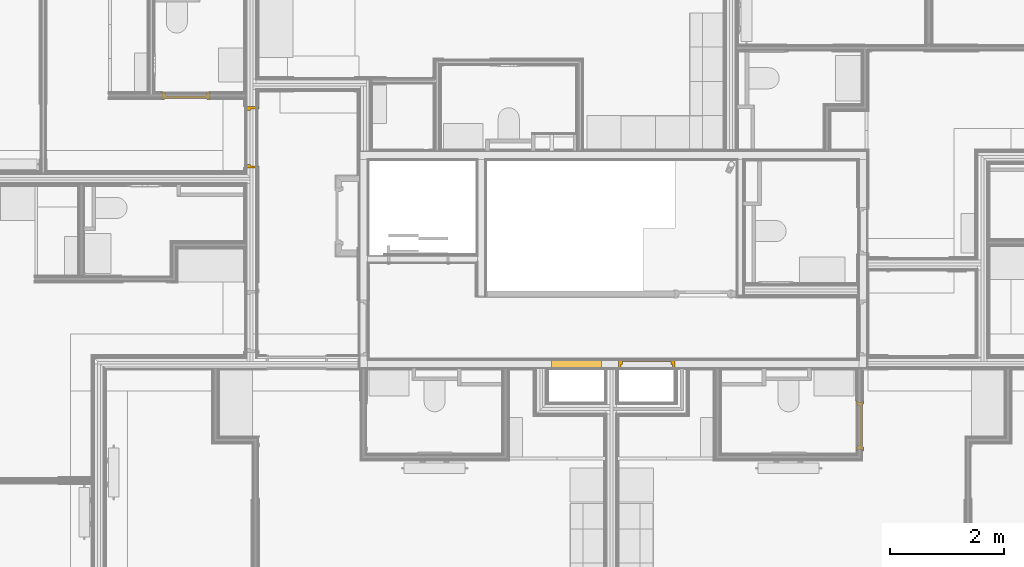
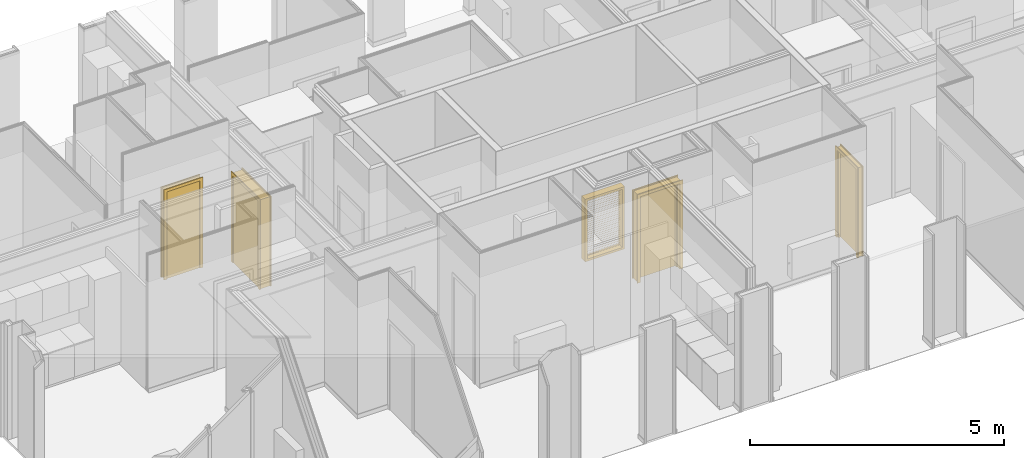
# One storey, part 53 of 64: 4 doors, 1 curtain wall.
"""IFC2X3 building model written with IfcOpenShell, lengths in metres."""

from ifc_helpers import new_model, entity, si_unit, converted_unit, derived_unit, money_unit, direction, frame, origin_with_axes, place, context, subcontext, project, spatial, open_shell, faceted_brep, surface_model, material, type_object, element, save


model = new_model("IFC2X3")

# Units and contexts
model_context = context("Model", 3, precision=1e-05, world=origin_with_axes(), true_north=direction((0.0, 1.0)))
body_context = subcontext(model_context, "Body", "Model", "MODEL_VIEW", scale=1.0)
ifc_project = project(units=[si_unit("LENGTHUNIT", "METRE"), si_unit("AREAUNIT", "SQUARE_METRE"), si_unit("VOLUMEUNIT", "CUBIC_METRE"), si_unit("ABSORBEDDOSEUNIT", "GRAY"), si_unit("AMOUNTOFSUBSTANCEUNIT", "MOLE"), si_unit("DOSEEQUIVALENTUNIT", "SIEVERT"), si_unit("ELECTRICCAPACITANCEUNIT", "FARAD"), si_unit("ELECTRICCHARGEUNIT", "COULOMB"), si_unit("ELECTRICCONDUCTANCEUNIT", "SIEMENS"), si_unit("ELECTRICCURRENTUNIT", "AMPERE"), si_unit("ELECTRICRESISTANCEUNIT", "OHM"), si_unit("ELECTRICVOLTAGEUNIT", "VOLT"), si_unit("ENERGYUNIT", "JOULE"), si_unit("FORCEUNIT", "NEWTON"), si_unit("FREQUENCYUNIT", "HERTZ"), si_unit("ILLUMINANCEUNIT", "LUX"), si_unit("INDUCTANCEUNIT", "HENRY"), si_unit("LUMINOUSFLUXUNIT", "LUMEN"), si_unit("LUMINOUSINTENSITYUNIT", "CANDELA"), si_unit("MAGNETICFLUXDENSITYUNIT", "TESLA"), si_unit("MAGNETICFLUXUNIT", "WEBER"), si_unit("MASSUNIT", "GRAM"), converted_unit("PLANEANGLEUNIT", "degree", entity("IfcReal", 0.0174532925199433), si_unit("PLANEANGLEUNIT", "RADIAN"), dimensions=[0, 0, 0, 0, 0, 0, 0]), si_unit("POWERUNIT", "WATT"), si_unit("PRESSUREUNIT", "PASCAL"), si_unit("RADIOACTIVITYUNIT", "BECQUEREL"), si_unit("SOLIDANGLEUNIT", "STERADIAN"), si_unit("THERMODYNAMICTEMPERATUREUNIT", "KELVIN"), si_unit("TIMEUNIT", "SECOND"), derived_unit("ACCELERATIONUNIT", [(si_unit("LENGTHUNIT", "METRE"), 1), (si_unit("TIMEUNIT", "SECOND"), -2)]), derived_unit("ANGULARVELOCITYUNIT", [(converted_unit("PLANEANGLEUNIT", "degree", entity("IfcReal", 0.0174532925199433), si_unit("PLANEANGLEUNIT", "RADIAN"), dimensions=[0, 0, 0, 0, 0, 0, 0]), 1), (si_unit("TIMEUNIT", "SECOND"), -1)]), derived_unit("CURVATUREUNIT", [(converted_unit("PLANEANGLEUNIT", "degree", entity("IfcReal", 0.0174532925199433), si_unit("PLANEANGLEUNIT", "RADIAN"), dimensions=[0, 0, 0, 0, 0, 0, 0]), 1), (si_unit("LENGTHUNIT", "METRE"), -1)]), derived_unit("DYNAMICVISCOSITYUNIT", [(si_unit("PRESSUREUNIT", "PASCAL"), 1), (si_unit("TIMEUNIT", "SECOND"), 1)]), derived_unit("HEATFLUXDENSITYUNIT", [(si_unit("POWERUNIT", "WATT"), 1), (si_unit("LENGTHUNIT", "METRE"), -2)]), derived_unit("HEATINGVALUEUNIT", [(si_unit("ENERGYUNIT", "JOULE"), 1), (si_unit("MASSUNIT", "GRAM"), -1)]), derived_unit("INTEGERCOUNTRATEUNIT", [(si_unit("TIMEUNIT", "SECOND"), -1)]), derived_unit("IONCONCENTRATIONUNIT", [(si_unit("MASSUNIT", "GRAM"), 1), (si_unit("VOLUMEUNIT", "CUBIC_METRE"), -1)]), derived_unit("ISOTHERMALMOISTURECAPACITYUNIT", [(si_unit("VOLUMEUNIT", "CUBIC_METRE"), 1), (si_unit("MASSUNIT", "GRAM"), -1)]), derived_unit("KINEMATICVISCOSITYUNIT", [(si_unit("AREAUNIT", "SQUARE_METRE"), 1), (si_unit("TIMEUNIT", "SECOND"), -1)]), derived_unit("LINEARFORCEUNIT", [(si_unit("FORCEUNIT", "NEWTON"), 1), (si_unit("LENGTHUNIT", "METRE"), -1)]), derived_unit("LINEARMOMENTUNIT", [(si_unit("FORCEUNIT", "NEWTON"), 1), (si_unit("LENGTHUNIT", "METRE"), -1)]), derived_unit("LINEARSTIFFNESSUNIT", [(si_unit("FORCEUNIT", "NEWTON"), 1), (si_unit("LENGTHUNIT", "METRE"), -1)]), derived_unit("LINEARVELOCITYUNIT", [(si_unit("LENGTHUNIT", "METRE"), 1), (si_unit("TIMEUNIT", "SECOND"), -1)]), derived_unit("LUMINOUSINTENSITYDISTRIBUTIONUNIT", [(si_unit("LUMINOUSINTENSITYUNIT", "CANDELA"), 1), (si_unit("LUMINOUSFLUXUNIT", "LUMEN"), -1)]), derived_unit("MASSDENSITYUNIT", [(si_unit("MASSUNIT", "GRAM"), 1), (si_unit("VOLUMEUNIT", "CUBIC_METRE"), -1)]), derived_unit("MASSFLOWRATEUNIT", [(si_unit("MASSUNIT", "GRAM"), 1), (si_unit("TIMEUNIT", "SECOND"), -1)]), derived_unit("MASSPERLENGTHUNIT", [(si_unit("MASSUNIT", "GRAM"), 1), (si_unit("LENGTHUNIT", "METRE"), -1)]), derived_unit("MODULUSOFELASTICITYUNIT", [(si_unit("FORCEUNIT", "NEWTON"), 1), (si_unit("AREAUNIT", "SQUARE_METRE"), -1)]), derived_unit("MODULUSOFLINEARSUBGRADEREACTIONUNIT", [(si_unit("FORCEUNIT", "NEWTON"), 1), (si_unit("LENGTHUNIT", "METRE"), -2)]), derived_unit("MODULUSOFROTATIONALSUBGRADEREACTIONUNIT", [(si_unit("FORCEUNIT", "NEWTON"), 1), (si_unit("LENGTHUNIT", "METRE"), 1)]), derived_unit("MODULUSOFSUBGRADEREACTIONUNIT", [(si_unit("FORCEUNIT", "NEWTON"), 1), (si_unit("VOLUMEUNIT", "CUBIC_METRE"), -1)]), derived_unit("MOISTUREDIFFUSIVITYUNIT", [(si_unit("VOLUMEUNIT", "CUBIC_METRE"), 1), (si_unit("TIMEUNIT", "SECOND"), -1)]), derived_unit("MOLECULARWEIGHTUNIT", [(si_unit("MASSUNIT", "GRAM"), 1), (si_unit("AMOUNTOFSUBSTANCEUNIT", "MOLE"), -1)]), derived_unit("PLANARFORCEUNIT", [(si_unit("FORCEUNIT", "NEWTON"), 1), (si_unit("LENGTHUNIT", "METRE"), -2)]), derived_unit("ROTATIONALFREQUENCYUNIT", [(si_unit("TIMEUNIT", "SECOND"), -1)]), derived_unit("ROTATIONALMASSUNIT", [(si_unit("MASSUNIT", "GRAM"), 1), (si_unit("LENGTHUNIT", "METRE"), 2)]), derived_unit("ROTATIONALSTIFFNESSUNIT", [(si_unit("FORCEUNIT", "NEWTON"), 1), (si_unit("LENGTHUNIT", "METRE"), 1), (converted_unit("PLANEANGLEUNIT", "degree", entity("IfcReal", 0.0174532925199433), si_unit("PLANEANGLEUNIT", "RADIAN"), dimensions=[0, 0, 0, 0, 0, 0, 0]), -1)]), derived_unit("SECTIONAREAINTEGRALUNIT", [(si_unit("LENGTHUNIT", "METRE"), 5)]), derived_unit("SECTIONMODULUSUNIT", [(si_unit("LENGTHUNIT", "METRE"), 3)]), derived_unit("SHEARMODULUSUNIT", [(si_unit("FORCEUNIT", "NEWTON"), 1), (si_unit("AREAUNIT", "SQUARE_METRE"), -1)]), derived_unit("SOUNDPOWERUNIT", [(si_unit("ENERGYUNIT", "JOULE"), 1), (si_unit("TIMEUNIT", "SECOND"), -1)]), derived_unit("SPECIFICHEATCAPACITYUNIT", [(si_unit("FORCEUNIT", "NEWTON"), 1), (si_unit("MASSUNIT", "GRAM"), -1), (si_unit("THERMODYNAMICTEMPERATUREUNIT", "KELVIN"), -1)]), derived_unit("TEMPERATUREGRADIENTUNIT", [(si_unit("THERMODYNAMICTEMPERATUREUNIT", "KELVIN"), 1), (si_unit("LENGTHUNIT", "METRE"), -1)]), derived_unit("THERMALADMITTANCEUNIT", [(si_unit("POWERUNIT", "WATT"), 1), (si_unit("AREAUNIT", "SQUARE_METRE"), -1), (si_unit("THERMODYNAMICTEMPERATUREUNIT", "KELVIN"), -1)]), derived_unit("THERMALCONDUCTANCEUNIT", [(si_unit("POWERUNIT", "WATT"), 1), (si_unit("LENGTHUNIT", "METRE"), -1), (si_unit("THERMODYNAMICTEMPERATUREUNIT", "KELVIN"), -1)]), derived_unit("THERMALEXPANSIONCOEFFICIENTUNIT", [(si_unit("THERMODYNAMICTEMPERATUREUNIT", "KELVIN"), -1)]), derived_unit("THERMALRESISTANCEUNIT", [(si_unit("AREAUNIT", "SQUARE_METRE"), 1), (si_unit("POWERUNIT", "WATT"), -1)]), derived_unit("THERMALTRANSMITTANCEUNIT", [(si_unit("POWERUNIT", "WATT"), 1), (si_unit("AREAUNIT", "SQUARE_METRE"), -1), (si_unit("THERMODYNAMICTEMPERATUREUNIT", "KELVIN"), -1)]), derived_unit("TORQUEUNIT", [(si_unit("FORCEUNIT", "NEWTON"), 1), (si_unit("LENGTHUNIT", "METRE"), 1)]), derived_unit("VAPORPERMEABILITYUNIT", [(si_unit("MASSUNIT", "GRAM"), 1), (si_unit("TIMEUNIT", "SECOND"), -1)]), derived_unit("VOLUMETRICFLOWRATEUNIT", [(si_unit("VOLUMEUNIT", "CUBIC_METRE"), 1), (si_unit("TIMEUNIT", "SECOND"), -1)]), derived_unit("WARPINGCONSTANTUNIT", [(si_unit("LENGTHUNIT", "METRE"), 6)]), derived_unit("WARPINGMOMENTUNIT", [(si_unit("FORCEUNIT", "NEWTON"), 1), (si_unit("LENGTHUNIT", "METRE"), 2)]), money_unit("GBP")], contexts=[model_context])

# Site, building, storey
site_placement = place(None, origin_with_axes())
site = spatial("IfcSite", under=ifc_project, at=site_placement, Name="Site", CompositionType="ELEMENT")
building_placement = place(site_placement, origin_with_axes())
building = spatial("IfcBuilding", under=site, at=building_placement, Name="Building01", CompositionType="ELEMENT")
storey_placement = place(building_placement, frame((0.0, 0.0, 8.64), z_axis=(0.0, 0.0, 1.0), x_axis=(1.0, 0.0, 0.0)))
storey = spatial("IfcBuildingStorey", under=building, at=storey_placement, Name="2F", CompositionType="ELEMENT", Elevation=8.64)

# Curtain wall
ifc_material_1 = material(Name="A-CurtainWall_Frame")
curtain_wall_type = type_object("IfcCurtainWallType", Name="Generic - Maximum Spacing", PredefinedType="NOTDEFINED")
curtain_wall_placement = place(storey_placement, frame((0.0, 0.0, -8.64), z_axis=(0.0, 0.0, 1.0), x_axis=(1.0, 0.0, 0.0)))
element("IfcCurtainWall", 1, at=curtain_wall_placement, inside=storey, type_object=curtain_wall_type, material=ifc_material_1, Name="Generic - Maximum Spacing", ObjectType="Generic - Maximum Spacing", context=body_context, shape_type="SurfaceModel", body=[
    surface_model("IfcShellBasedSurfaceModel", [(12.483, 5.12953, 9.573684), (12.483, 5.131392, 9.576216), (12.483, 5.09047, 9.606316), (12.483, 5.088608, 9.603784), (13.283, 5.12953, 9.573684), (13.283, 5.088608, 9.603784), (13.283, 5.09047, 9.606316), (13.283, 5.131392, 9.576216), (12.483, 5.131392, 9.626216), (12.483, 5.09047, 9.656316), (12.483, 5.088608, 9.653784), (12.483, 5.12953, 9.623684), (13.283, 5.12953, 9.623684), (13.283, 5.088608, 9.653784), (13.283, 5.09047, 9.656316), (13.283, 5.131392, 9.626216), (12.483, 5.131392, 9.676216), (12.483, 5.09047, 9.706316), (12.483, 5.088608, 9.703784), (12.483, 5.12953, 9.673684), (13.283, 5.12953, 9.673684), (13.283, 5.088608, 9.703784), (13.283, 5.09047, 9.706316), (13.283, 5.131392, 9.676216), (12.483, 5.131392, 9.726216), (12.483, 5.09047, 9.756316), (12.483, 5.088608, 9.753784), (12.483, 5.12953, 9.723684), (13.283, 5.12953, 9.723684), (13.283, 5.088608, 9.753784), (13.283, 5.09047, 9.756316), (13.283, 5.131392, 9.726216), (12.483, 5.131392, 9.776216), (12.483, 5.09047, 9.806316), (12.483, 5.088608, 9.803784), (12.483, 5.12953, 9.773684), (13.283, 5.12953, 9.773684), (13.283, 5.088608, 9.803784), (13.283, 5.09047, 9.806316), (13.283, 5.131392, 9.776216), (12.483, 5.131392, 9.826216), (12.483, 5.09047, 9.856316), (12.483, 5.088608, 9.853784), (12.483, 5.12953, 9.823684), (13.283, 5.12953, 9.823684), (13.283, 5.088608, 9.853784), (13.283, 5.09047, 9.856316), (13.283, 5.131392, 9.826216), (12.483, 5.131392, 9.876216), (12.483, 5.09047, 9.906316), (12.483, 5.088608, 9.903784), (12.483, 5.12953, 9.873684), (13.283, 5.12953, 9.873684), (13.283, 5.088608, 9.903784), (13.283, 5.09047, 9.906316), (13.283, 5.131392, 9.876216), (12.483, 5.131392, 9.926216), (12.483, 5.09047, 9.956316), (12.483, 5.088608, 9.953784), (12.483, 5.12953, 9.923684), (13.283, 5.12953, 9.923684), (13.283, 5.088608, 9.953784), (13.283, 5.09047, 9.956316), (13.283, 5.131392, 9.926216), (12.483, 5.131392, 9.976216), (12.483, 5.09047, 10.006316), (12.483, 5.088608, 10.003784), (12.483, 5.12953, 9.973684), (13.283, 5.12953, 9.973684), (13.283, 5.088608, 10.003784), (13.283, 5.09047, 10.006316), (13.283, 5.131392, 9.976216), (12.483, 5.131392, 10.026216), (12.483, 5.09047, 10.056316), (12.483, 5.088608, 10.053784), (12.483, 5.12953, 10.023684), (13.283, 5.12953, 10.023684), (13.283, 5.088608, 10.053784), (13.283, 5.09047, 10.056316), (13.283, 5.131392, 10.026216), (12.483, 5.131392, 10.076216), (12.483, 5.09047, 10.106316), (12.483, 5.088608, 10.103784), (12.483, 5.12953, 10.073684), (13.283, 5.12953, 10.073684), (13.283, 5.088608, 10.103784), (13.283, 5.09047, 10.106316), (13.283, 5.131392, 10.076216), (12.483, 5.131392, 10.126216), (12.483, 5.09047, 10.156316), (12.483, 5.088608, 10.153784), (12.483, 5.12953, 10.123684), (13.283, 5.12953, 10.123684), (13.283, 5.088608, 10.153784), (13.283, 5.09047, 10.156316), (13.283, 5.131392, 10.126216), (12.483, 5.131392, 10.176216), (12.483, 5.09047, 10.206316), (12.483, 5.088608, 10.203784), (12.483, 5.12953, 10.173684), (13.283, 5.12953, 10.173684), (13.283, 5.088608, 10.203784), (13.283, 5.09047, 10.206316), (13.283, 5.131392, 10.176216), (12.483, 5.131392, 10.226216), (12.483, 5.09047, 10.256316), (12.483, 5.088608, 10.253784), (12.483, 5.12953, 10.223684), (13.283, 5.12953, 10.223684), (13.283, 5.088608, 10.253784), (13.283, 5.09047, 10.256316), (13.283, 5.131392, 10.226216), (12.483, 5.131392, 10.276216), (12.483, 5.09047, 10.306316), (12.483, 5.088608, 10.303784), (12.483, 5.12953, 10.273684), (13.283, 5.12953, 10.273684), (13.283, 5.088608, 10.303784), (13.283, 5.09047, 10.306316), (13.283, 5.131392, 10.276216), (12.483, 5.131392, 10.326216), (12.483, 5.09047, 10.356316), (12.483, 5.088608, 10.353784), (12.483, 5.12953, 10.323684), (13.283, 5.12953, 10.323684), (13.283, 5.088608, 10.353784), (13.283, 5.09047, 10.356316), (13.283, 5.131392, 10.326216), (12.483, 5.131392, 10.376216), (12.483, 5.09047, 10.406316), (12.483, 5.088608, 10.403784), (12.483, 5.12953, 10.373684), (13.283, 5.12953, 10.373684), (13.283, 5.088608, 10.403784), (13.283, 5.09047, 10.406316), (13.283, 5.131392, 10.376216), (12.483, 5.131392, 10.426216), (12.483, 5.09047, 10.456316), (12.483, 5.088608, 10.453784), (12.483, 5.12953, 10.423684), (13.283, 5.12953, 10.423684), (13.283, 5.088608, 10.453784), (13.283, 5.09047, 10.456316), (13.283, 5.131392, 10.426216), (12.483, 5.131392, 10.476216), (12.483, 5.09047, 10.506316), (12.483, 5.088608, 10.503784), (12.483, 5.12953, 10.473684), (13.283, 5.12953, 10.473684), (13.283, 5.088608, 10.503784), (13.283, 5.09047, 10.506316), (13.283, 5.131392, 10.476216), (12.483, 5.131392, 10.526216), (12.483, 5.09047, 10.556316), (12.483, 5.088608, 10.553784), (12.483, 5.12953, 10.523684), (13.283, 5.12953, 10.523684), (13.283, 5.088608, 10.553784), (13.283, 5.09047, 10.556316), (13.283, 5.131392, 10.526216), (12.483, 5.131392, 10.576216), (12.483, 5.09047, 10.606316), (12.483, 5.088608, 10.603784), (12.483, 5.12953, 10.573684), (13.283, 5.12953, 10.573684), (13.283, 5.088608, 10.603784), (13.283, 5.09047, 10.606316), (13.283, 5.131392, 10.576216), (12.483, 5.131392, 10.626216), (12.483, 5.09047, 10.656316), (12.483, 5.088608, 10.653784), (12.483, 5.12953, 10.623684), (13.283, 5.12953, 10.623684), (13.283, 5.088608, 10.653784), (13.283, 5.09047, 10.656316), (13.283, 5.131392, 10.626216), (12.483, 5.131392, 10.676216), (12.483, 5.09047, 10.706316), (12.483, 5.088608, 10.703784), (12.483, 5.12953, 10.673684), (13.283, 5.12953, 10.673684), (13.283, 5.088608, 10.703784), (13.283, 5.09047, 10.706316), (13.283, 5.131392, 10.676216), (12.483, 5.131392, 10.726216), (12.483, 5.09047, 10.756316), (12.483, 5.088608, 10.753784), (12.483, 5.12953, 10.723684), (13.283, 5.12953, 10.723684), (13.283, 5.088608, 10.753784), (13.283, 5.09047, 10.756316), (13.283, 5.131392, 10.726216), (12.483, 5.131392, 10.776216), (12.483, 5.09047, 10.806316), (12.483, 5.088608, 10.803784), (12.483, 5.12953, 10.773684), (13.283, 5.12953, 10.773684), (13.283, 5.088608, 10.803784), (13.283, 5.09047, 10.806316), (13.283, 5.131392, 10.776216), (12.483, 5.131392, 10.826216), (12.483, 5.09047, 10.856316), (12.483, 5.088608, 10.853784), (12.483, 5.12953, 10.823684), (13.283, 5.12953, 10.823684), (13.283, 5.088608, 10.853784), (13.283, 5.09047, 10.856316), (13.283, 5.131392, 10.826216), (12.483, 5.131392, 10.876216), (12.483, 5.09047, 10.906316), (12.483, 5.088608, 10.903784), (12.483, 5.12953, 10.873684), (13.283, 5.12953, 10.873684), (13.283, 5.088608, 10.903784), (13.283, 5.09047, 10.906316), (13.283, 5.131392, 10.876216), (12.483, 5.131392, 10.926216), (12.483, 5.09047, 10.956316), (12.483, 5.088608, 10.953784), (12.483, 5.12953, 10.923684), (13.283, 5.12953, 10.923684), (13.283, 5.088608, 10.953784), (13.283, 5.09047, 10.956316), (13.283, 5.131392, 10.926216), (13.283, 5.15, 9.59), (13.283, 5.0, 9.59), (13.283, 5.0, 9.54), (13.283, 5.15, 9.54), (12.483, 5.15, 9.54), (12.483, 5.15, 9.59), (12.483, 5.0, 9.59), (12.483, 5.0, 9.54), (13.333, 5.0, 11.04), (13.333, 5.15, 11.04), (13.283, 5.15, 11.04), (13.283, 5.0, 11.04), (13.333, 5.0, 9.54), (13.333, 5.15, 9.54), (12.483, 5.0, 11.04), (12.483, 5.15, 11.04), (12.483, 5.15, 10.99), (12.483, 5.0, 10.99), (13.283, 5.0, 10.99), (13.283, 5.15, 10.99), (12.433, 5.0, 9.54), (12.433, 5.15, 9.54), (12.433, 5.0, 11.04), (12.433, 5.15, 11.04)], [open_shell([[[0, 1, 2, 3]], [[1, 2, 3, 0]], [[4, 5, 6, 7]], [[1, 0, 4, 7]], [[2, 1, 7, 6]], [[3, 2, 6, 5]], [[4, 0, 3, 5]], [[8, 9, 10, 11]], [[12, 13, 14, 15]], [[8, 11, 12, 15]], [[9, 8, 15, 14]], [[10, 9, 14, 13]], [[12, 11, 10, 13]], [[16, 17, 18, 19]], [[20, 21, 22, 23]], [[16, 19, 20, 23]], [[17, 16, 23, 22]], [[18, 17, 22, 21]], [[20, 19, 18, 21]], [[24, 25, 26, 27]], [[28, 29, 30, 31]], [[24, 27, 28, 31]], [[25, 24, 31, 30]], [[26, 25, 30, 29]], [[28, 27, 26, 29]], [[32, 33, 34, 35]], [[36, 37, 38, 39]], [[32, 35, 36, 39]], [[33, 32, 39, 38]], [[34, 33, 38, 37]], [[36, 35, 34, 37]], [[40, 41, 42, 43]], [[44, 45, 46, 47]], [[40, 43, 44, 47]], [[41, 40, 47, 46]], [[42, 41, 46, 45]], [[44, 43, 42, 45]], [[48, 49, 50, 51]], [[52, 53, 54, 55]], [[48, 51, 52, 55]], [[49, 48, 55, 54]], [[50, 49, 54, 53]], [[52, 51, 50, 53]], [[56, 57, 58, 59]], [[60, 61, 62, 63]], [[56, 59, 60, 63]], [[57, 56, 63, 62]], [[58, 57, 62, 61]], [[60, 59, 58, 61]], [[64, 65, 66, 67]], [[68, 69, 70, 71]], [[64, 67, 68, 71]], [[65, 64, 71, 70]], [[66, 65, 70, 69]], [[68, 67, 66, 69]], [[72, 73, 74, 75]], [[76, 77, 78, 79]], [[72, 75, 76, 79]], [[73, 72, 79, 78]], [[74, 73, 78, 77]], [[76, 75, 74, 77]], [[80, 81, 82, 83]], [[84, 85, 86, 87]], [[80, 83, 84, 87]], [[81, 80, 87, 86]], [[82, 81, 86, 85]], [[84, 83, 82, 85]], [[88, 89, 90, 91]], [[92, 93, 94, 95]], [[88, 91, 92, 95]], [[89, 88, 95, 94]], [[90, 89, 94, 93]], [[92, 91, 90, 93]], [[96, 97, 98, 99]], [[100, 101, 102, 103]], [[96, 99, 100, 103]], [[97, 96, 103, 102]], [[98, 97, 102, 101]], [[100, 99, 98, 101]], [[104, 105, 106, 107]], [[108, 109, 110, 111]], [[104, 107, 108, 111]], [[105, 104, 111, 110]], [[106, 105, 110, 109]], [[108, 107, 106, 109]], [[112, 113, 114, 115]], [[116, 117, 118, 119]], [[112, 115, 116, 119]], [[113, 112, 119, 118]], [[114, 113, 118, 117]], [[116, 115, 114, 117]], [[120, 121, 122, 123]], [[124, 125, 126, 127]], [[120, 123, 124, 127]], [[121, 120, 127, 126]], [[122, 121, 126, 125]], [[124, 123, 122, 125]], [[128, 129, 130, 131]], [[132, 133, 134, 135]], [[128, 131, 132, 135]], [[129, 128, 135, 134]], [[130, 129, 134, 133]], [[132, 131, 130, 133]], [[136, 137, 138, 139]], [[140, 141, 142, 143]], [[136, 139, 140, 143]], [[137, 136, 143, 142]], [[138, 137, 142, 141]], [[140, 139, 138, 141]], [[144, 145, 146, 147]], [[148, 149, 150, 151]], [[144, 147, 148, 151]], [[145, 144, 151, 150]], [[146, 145, 150, 149]], [[148, 147, 146, 149]], [[152, 153, 154, 155]], [[156, 157, 158, 159]], [[152, 155, 156, 159]], [[153, 152, 159, 158]], [[154, 153, 158, 157]], [[156, 155, 154, 157]], [[160, 161, 162, 163]], [[164, 165, 166, 167]], [[160, 163, 164, 167]], [[161, 160, 167, 166]], [[162, 161, 166, 165]], [[164, 163, 162, 165]], [[168, 169, 170, 171]], [[172, 173, 174, 175]], [[168, 171, 172, 175]], [[169, 168, 175, 174]], [[170, 169, 174, 173]], [[172, 171, 170, 173]], [[176, 177, 178, 179]], [[180, 181, 182, 183]], [[176, 179, 180, 183]], [[177, 176, 183, 182]], [[178, 177, 182, 181]], [[180, 179, 178, 181]], [[184, 185, 186, 187]], [[188, 189, 190, 191]], [[184, 187, 188, 191]], [[185, 184, 191, 190]], [[186, 185, 190, 189]], [[188, 187, 186, 189]], [[192, 193, 194, 195]], [[196, 197, 198, 199]], [[192, 195, 196, 199]], [[193, 192, 199, 198]], [[194, 193, 198, 197]], [[196, 195, 194, 197]], [[200, 201, 202, 203]], [[204, 205, 206, 207]], [[200, 203, 204, 207]], [[201, 200, 207, 206]], [[202, 201, 206, 205]], [[204, 203, 202, 205]], [[208, 209, 210, 211]], [[212, 213, 214, 215]], [[208, 211, 212, 215]], [[209, 208, 215, 214]], [[210, 209, 214, 213]], [[212, 211, 210, 213]], [[216, 217, 218, 219]], [[220, 221, 222, 223]], [[216, 219, 220, 223]], [[217, 216, 223, 222]], [[218, 217, 222, 221]], [[220, 219, 218, 221]], [[224, 225, 226, 227]], [[227, 228, 229, 224]], [[224, 229, 230, 225]], [[225, 230, 231, 226]], [[226, 231, 228, 227]], [[231, 230, 229, 228]], [[232, 233, 234, 235]], [[235, 226, 236, 232]], [[234, 227, 226, 235]], [[233, 237, 227, 234]], [[232, 236, 237, 233]], [[226, 227, 237, 236]], [[238, 239, 240, 241]], [[241, 242, 235, 238]], [[238, 235, 234, 239]], [[239, 234, 243, 240]], [[240, 243, 242, 241]], [[243, 234, 235, 242]], [[244, 245, 228, 231]], [[231, 238, 246, 244]], [[228, 239, 238, 231]], [[245, 247, 239, 228]], [[244, 246, 247, 245]], [[238, 239, 247, 246]]])]),
])

# Space
space_1_placement = place(storey_placement, frame((3.569669, 8.43567, 0.017975), z_axis=(0.0, 0.0, 1.0), x_axis=(1.0, 0.0, 0.0)))
space_1 = spatial("IfcSpace", under=storey, at=space_1_placement, Name="corridor", CompositionType="ELEMENT", InteriorOrExteriorSpace="NOTDEFINED")

# Door
ifc_material_2 = material(Name="A_BSUK_Doors")
door_style_1 = type_object("IfcDoorStyle", Name="A-Doors-SingleFlush", ConstructionType="USERDEFINED", OperationType="SINGLE_SWING_LEFT", ParameterTakesPrecedence=False, Sizeable=False)
door_1_placement = place(storey_placement, frame((7.064669, 8.550704, 0.0), z_axis=(0.0, 0.0, 1.0), x_axis=(0.0, 1.0, 0.0)))
element("IfcDoor", 2, at=door_1_placement, inside=space_1, type_object=door_style_1, material=ifc_material_2, Name="2.20", ObjectType="A-Doors-SingleFlush", OverallHeight=2.16900000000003, OverallWidth=1.13800000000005, context=body_context, shape_type="Brep", body=[
    faceted_brep([(0.0, -0.244, 2.1), (1.0, -0.244, 2.1), (1.0, -0.244, 0.0), (1.069, -0.244, 0.0), (1.069, -0.244, 2.169), (-0.069, -0.244, 2.169), (-0.069, -0.244, 0.0), (0.0, -0.244, 0.0), (1.069, -0.225, 2.169), (1.069, -0.225, 0.0), (-0.069, -0.225, 0.0), (-0.069, -0.225, 2.169), (-0.042, -0.225, 0.0), (-0.042, 0.0, 0.0), (-0.069, 0.0, 0.0), (-0.069, 0.019, 0.0), (0.0, 0.019, 0.0), (0.0, 0.019, 2.1), (1.0, 0.019, 2.1), (-0.069, 0.019, 2.169), (1.069, 0.019, 2.169), (1.069, 0.019, 0.0), (1.0, 0.019, 0.0), (-0.069, 0.0, 2.169), (-0.042, 0.0, 2.142), (-0.042, -0.225, 2.142), (1.042, 0.0, 2.142), (1.042, -0.225, 2.142), (1.042, -0.225, 0.0), (1.042, 0.0, 0.0), (1.069, 0.0, 0.0), (1.069, 0.0, 2.169)], [[[0, 1, 2, 3, 4, 5, 6, 7]], [[8, 4, 3, 9]], [[10, 6, 5, 11]], [[11, 5, 4, 8]], [[7, 6, 10, 12, 13, 14, 15, 16]], [[7, 16, 17, 0]], [[0, 17, 18, 1]], [[17, 16, 15, 19, 20, 21, 22, 18]], [[1, 18, 22, 2]], [[14, 23, 19, 15]], [[24, 13, 12, 25]], [[26, 24, 25, 27]], [[11, 8, 9, 28, 27, 25, 12, 10]], [[27, 28, 29, 26]], [[26, 29, 30, 31, 23, 14, 13, 24]], [[22, 21, 30, 29, 28, 9, 3, 2]], [[30, 21, 20, 31]], [[31, 20, 19, 23]]]),
    faceted_brep([(1.0, -0.09, 0.0), (1.0, -0.04, 0.0), (1.0, -0.04, 2.1), (1.0, -0.09, 2.1), (0.025, -0.09, 2.075), (0.975, -0.09, 2.075), (0.975, -0.09, 0.0), (0.0, -0.09, 2.1), (0.0, -0.09, 0.0), (0.025, -0.09, 0.0), (0.0, -0.04, 0.0), (0.025, -0.04, 0.0), (0.0, -0.04, 2.1), (0.025, -0.04, 2.075), (0.975, -0.04, 0.0), (0.975, -0.04, 2.075)], [[[0, 1, 2, 3]], [[4, 5, 6, 0, 3, 7, 8, 9]], [[9, 8, 10, 11]], [[3, 2, 12, 7]], [[7, 12, 10, 8]], [[13, 11, 10, 12, 2, 1, 14, 15]], [[5, 15, 14, 6]], [[14, 1, 0, 6]], [[9, 11, 13, 4]], [[4, 13, 15, 5]]]),
    faceted_brep([(0.0, -0.04, 2.1), (0.0, 0.0, 2.1), (0.0, 0.0, 0.0), (0.0, -0.04, 0.0), (1.0, -0.04, 0.0), (1.0, 0.0, 0.0), (1.0, 0.0, 2.1), (1.0, -0.04, 2.1)], [[[0, 1, 2, 3]], [[4, 5, 6, 7]], [[3, 2, 5, 4]], [[3, 4, 7, 0]], [[7, 6, 1, 0]], [[1, 6, 5, 2]]]),
])

# Space
space_2_placement = place(storey_placement, frame((14.85, 4.98, 0.017975), z_axis=(0.0, 0.0, 1.0), x_axis=(0.0, -1.0, 0.0)))
space_2 = spatial("IfcSpace", under=storey, at=space_2_placement, Name="11", CompositionType="ELEMENT", InteriorOrExteriorSpace="NOTDEFINED")

# Door
door_style_2 = type_object("IfcDoorStyle", Name="A-Doors-SingleFlush", ConstructionType="USERDEFINED", OperationType="SINGLE_SWING_RIGHT", ParameterTakesPrecedence=False, Sizeable=False)
door_2_placement = place(storey_placement, frame((17.9025, 4.363781, 0.0), z_axis=(0.0, 0.0, 1.0), x_axis=(0.0, -1.0, 0.0)))
element("IfcDoor", 3, at=door_2_placement, inside=space_2, type_object=door_style_2, material=ifc_material_2, Name="2.13", ObjectType="A-Doors-SingleFlush", OverallHeight=2.16900000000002, OverallWidth=0.88800000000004, context=body_context, shape_type="Brep", body=[
    faceted_brep([(0.75, -0.114, 0.0), (0.819, -0.114, 0.0), (0.819, -0.114, 2.169), (-0.069, -0.114, 2.169), (-0.069, -0.114, 0.0), (0.0, -0.114, 0.0), (0.0, -0.114, 2.1), (0.75, -0.114, 2.1), (-0.069, -0.095, 0.0), (-0.069, -0.095, 2.169), (0.819, -0.095, 2.169), (0.819, -0.095, 0.0), (0.75, 0.019, 0.0), (0.819, 0.019, 0.0), (0.819, 0.0, 0.0), (0.792, 0.0, 0.0), (0.792, -0.095, 0.0), (0.75, 0.019, 2.1), (0.0, 0.019, 2.1), (0.0, 0.019, 0.0), (-0.069, 0.019, 0.0), (-0.069, 0.019, 2.169), (0.819, 0.019, 2.169), (0.819, 0.0, 2.169), (0.792, -0.095, 2.142), (0.792, 0.0, 2.142), (-0.042, -0.095, 2.142), (-0.042, 0.0, 2.142), (-0.042, -0.095, 0.0), (-0.042, 0.0, 0.0), (-0.069, 0.0, 2.169), (-0.069, 0.0, 0.0)], [[[0, 1, 2, 3, 4, 5, 6, 7]], [[8, 4, 3, 9]], [[10, 2, 1, 11]], [[9, 3, 2, 10]], [[12, 13, 14, 15, 16, 11, 1, 0]], [[7, 17, 12, 0]], [[6, 18, 17, 7]], [[18, 19, 20, 21, 22, 13, 12, 17]], [[5, 19, 18, 6]], [[13, 22, 23, 14]], [[24, 16, 15, 25]], [[26, 24, 25, 27]], [[11, 16, 24, 26, 28, 8, 9, 10]], [[27, 29, 28, 26]], [[25, 15, 14, 23, 30, 31, 29, 27]], [[5, 4, 8, 28, 29, 31, 20, 19]], [[30, 21, 20, 31]], [[23, 22, 21, 30]]]),
    faceted_brep([(0.0, -0.09, 2.1), (0.0, -0.04, 2.1), (0.0, -0.04, 0.0), (0.0, -0.09, 0.0), (0.725, -0.09, 0.0), (0.75, -0.09, 0.0), (0.75, -0.09, 2.1), (0.025, -0.09, 0.0), (0.025, -0.09, 2.075), (0.725, -0.09, 2.075), (0.725, -0.04, 0.0), (0.75, -0.04, 0.0), (0.75, -0.04, 2.1), (0.025, -0.04, 2.075), (0.025, -0.04, 0.0), (0.725, -0.04, 2.075)], [[[0, 1, 2, 3]], [[4, 5, 6, 0, 3, 7, 8, 9]], [[10, 11, 5, 4]], [[6, 12, 1, 0]], [[5, 11, 12, 6]], [[13, 14, 2, 1, 12, 11, 10, 15]], [[7, 14, 13, 8]], [[7, 3, 2, 14]], [[9, 15, 10, 4]], [[8, 13, 15, 9]]]),
    faceted_brep([(0.75, -0.04, 0.0), (0.75, 0.0, 0.0), (0.75, 0.0, 2.1), (0.75, -0.04, 2.1), (0.0, -0.04, 2.1), (0.0, 0.0, 2.1), (0.0, 0.0, 0.0), (0.0, -0.04, 0.0)], [[[0, 1, 2, 3]], [[4, 5, 6, 7]], [[7, 6, 1, 0]], [[3, 4, 7, 0]], [[3, 2, 5, 4]], [[1, 6, 5, 2]]]),
])

# Space
space_3_placement = place(storey_placement, frame((7.064669, 14.582, 0.017975), z_axis=(0.0, 0.0, 1.0), x_axis=(-1.0, 0.0, 0.0)))
space_3 = spatial("IfcSpace", under=storey, at=space_3_placement, Name="14", CompositionType="ELEMENT", InteriorOrExteriorSpace="NOTDEFINED")

# Door
door_3_placement = place(storey_placement, frame((6.398669, 9.73567, 0.0), z_axis=(0.0, 0.0, 1.0), x_axis=(-1.0, 0.0, 0.0)))
element("IfcDoor", 4, at=door_3_placement, inside=space_3, type_object=door_style_2, material=ifc_material_2, Name="2.22", ObjectType="A-Doors-SingleFlush", OverallHeight=2.16900000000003, OverallWidth=0.888000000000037, context=body_context, shape_type="Brep", body=[
    faceted_brep([(0.75, -0.114, 0.0), (0.819, -0.114, 0.0), (0.819, -0.114, 2.169), (-0.069, -0.114, 2.169), (-0.069, -0.114, 0.0), (0.0, -0.114, 0.0), (0.0, -0.114, 2.1), (0.75, -0.114, 2.1), (-0.069, -0.095, 0.0), (-0.069, -0.095, 2.169), (0.819, -0.095, 2.169), (0.819, -0.095, 0.0), (0.75, 0.019, 0.0), (0.819, 0.019, 0.0), (0.819, 0.0, 0.0), (0.792, 0.0, 0.0), (0.792, -0.095, 0.0), (0.75, 0.019, 2.1), (0.0, 0.019, 2.1), (0.0, 0.019, 0.0), (-0.069, 0.019, 0.0), (-0.069, 0.019, 2.169), (0.819, 0.019, 2.169), (0.819, 0.0, 2.169), (0.792, -0.095, 2.142), (0.792, 0.0, 2.142), (-0.042, -0.095, 2.142), (-0.042, 0.0, 2.142), (-0.042, -0.095, 0.0), (-0.042, 0.0, 0.0), (-0.069, 0.0, 2.169), (-0.069, 0.0, 0.0)], [[[0, 1, 2, 3, 4, 5, 6, 7]], [[8, 4, 3, 9]], [[10, 2, 1, 11]], [[9, 3, 2, 10]], [[12, 13, 14, 15, 16, 11, 1, 0]], [[7, 17, 12, 0]], [[6, 18, 17, 7]], [[18, 19, 20, 21, 22, 13, 12, 17]], [[5, 19, 18, 6]], [[13, 22, 23, 14]], [[24, 16, 15, 25]], [[26, 24, 25, 27]], [[11, 16, 24, 26, 28, 8, 9, 10]], [[27, 29, 28, 26]], [[25, 15, 14, 23, 30, 31, 29, 27]], [[5, 4, 8, 28, 29, 31, 20, 19]], [[30, 21, 20, 31]], [[23, 22, 21, 30]]]),
    faceted_brep([(0.0, -0.09, 2.1), (0.0, -0.04, 2.1), (0.0, -0.04, 0.0), (0.0, -0.09, 0.0), (0.725, -0.09, 0.0), (0.75, -0.09, 0.0), (0.75, -0.09, 2.1), (0.025, -0.09, 0.0), (0.025, -0.09, 2.075), (0.725, -0.09, 2.075), (0.725, -0.04, 0.0), (0.75, -0.04, 0.0), (0.75, -0.04, 2.1), (0.025, -0.04, 2.075), (0.025, -0.04, 0.0), (0.725, -0.04, 2.075)], [[[0, 1, 2, 3]], [[4, 5, 6, 0, 3, 7, 8, 9]], [[10, 11, 5, 4]], [[6, 12, 1, 0]], [[5, 11, 12, 6]], [[13, 14, 2, 1, 12, 11, 10, 15]], [[7, 14, 13, 8]], [[7, 3, 2, 14]], [[9, 15, 10, 4]], [[8, 13, 15, 9]]]),
    faceted_brep([(0.75, -0.04, 0.0), (0.75, 0.0, 0.0), (0.75, 0.0, 2.1), (0.75, -0.04, 2.1), (0.0, -0.04, 2.1), (0.0, 0.0, 2.1), (0.0, 0.0, 0.0), (0.0, -0.04, 0.0)], [[[0, 1, 2, 3]], [[4, 5, 6, 7]], [[7, 6, 1, 0]], [[3, 4, 7, 0]], [[3, 2, 5, 4]], [[1, 6, 5, 2]]]),
])

# Space
space_4_placement = place(storey_placement, frame((9.227386, 6.85, 0.017932), z_axis=(0.0, 0.0, 1.0), x_axis=(0.0, -1.0, 0.0)))
space_4 = spatial("IfcSpace", under=storey, at=space_4_placement, Name="hall (vented)", CompositionType="ELEMENT", InteriorOrExteriorSpace="NOTDEFINED")

# Door
door_style_3 = type_object("IfcDoorStyle", Name="A-Doors-DoubleFlush", ConstructionType="USERDEFINED", OperationType="DOUBLE_DOOR_SINGLE_SWING", ParameterTakesPrecedence=False, Sizeable=False)
door_4_placement = place(storey_placement, frame((13.667, 5.15, 0.0), z_axis=(0.0, 0.0, 1.0), x_axis=(1.0, 0.0, 0.0)))
element("IfcDoor", 5, at=door_4_placement, inside=space_4, type_object=door_style_3, material=ifc_material_2, Name="2.03", ObjectType="A-Doors-DoubleFlush", OverallHeight=2.12700000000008, OverallWidth=1.03800000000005, context=body_context, shape_type="Brep", body=[
    faceted_brep([(0.0, -0.189, 2.058), (0.9, -0.189, 2.058), (0.9, -0.189, 0.0), (0.969, -0.189, 0.0), (0.969, -0.189, 2.127), (-0.069, -0.189, 2.127), (-0.069, -0.189, 0.0), (0.0, -0.189, 0.0), (0.969, -0.17, 2.127), (0.969, -0.17, 0.0), (-0.069, -0.17, 0.0), (-0.069, -0.17, 2.127), (-0.042, -0.17, 0.0), (-0.042, 0.0, 0.0), (-0.069, 0.0, 0.0), (-0.069, 0.019, 0.0), (0.0, 0.019, 0.0), (0.0, 0.019, 2.058), (0.9, 0.019, 2.058), (-0.069, 0.019, 2.127), (0.969, 0.019, 2.127), (0.969, 0.019, 0.0), (0.9, 0.019, 0.0), (-0.069, 0.0, 2.127), (-0.042, 0.0, 2.1), (-0.042, -0.17, 2.1), (0.942, 0.0, 2.1), (0.942, -0.17, 2.1), (0.942, -0.17, 0.0), (0.942, 0.0, 0.0), (0.969, 0.0, 0.0), (0.969, 0.0, 2.127)], [[[0, 1, 2, 3, 4, 5, 6, 7]], [[8, 4, 3, 9]], [[10, 6, 5, 11]], [[11, 5, 4, 8]], [[7, 6, 10, 12, 13, 14, 15, 16]], [[7, 16, 17, 0]], [[0, 17, 18, 1]], [[17, 16, 15, 19, 20, 21, 22, 18]], [[1, 18, 22, 2]], [[14, 23, 19, 15]], [[24, 13, 12, 25]], [[26, 24, 25, 27]], [[11, 8, 9, 28, 27, 25, 12, 10]], [[27, 28, 29, 26]], [[26, 29, 30, 31, 23, 14, 13, 24]], [[22, 21, 30, 29, 28, 9, 3, 2]], [[30, 21, 20, 31]], [[31, 20, 19, 23]]]),
    faceted_brep([(0.9, -0.09, 0.0), (0.9, -0.04, 0.0), (0.9, -0.04, 2.058), (0.9, -0.09, 2.058), (0.025, -0.09, 2.033), (0.875, -0.09, 2.033), (0.875, -0.09, 0.0), (0.0, -0.09, 2.058), (0.0, -0.09, 0.0), (0.025, -0.09, 0.0), (0.0, -0.04, 0.0), (0.025, -0.04, 0.0), (0.0, -0.04, 2.058), (0.025, -0.04, 2.033), (0.875, -0.04, 0.0), (0.875, -0.04, 2.033)], [[[0, 1, 2, 3]], [[4, 5, 6, 0, 3, 7, 8, 9]], [[9, 8, 10, 11]], [[3, 2, 12, 7]], [[7, 12, 10, 8]], [[13, 11, 10, 12, 2, 1, 14, 15]], [[5, 15, 14, 6]], [[14, 1, 0, 6]], [[9, 11, 13, 4]], [[4, 13, 15, 5]]]),
    faceted_brep([(0.0, -0.04, 2.058), (0.0, 0.0, 2.058), (0.0, 0.0, 0.0), (0.0, -0.04, 0.0), (0.45, -0.04, 0.0), (0.45, 0.0, 0.0), (0.45, 0.0, 2.058), (0.45, -0.04, 2.058)], [[[0, 1, 2, 3]], [[4, 5, 6, 7]], [[3, 2, 5, 4]], [[3, 4, 7, 0]], [[7, 6, 1, 0]], [[1, 6, 5, 2]]]),
    faceted_brep([(0.45, -0.04, 2.058), (0.45, 0.0, 2.058), (0.45, 0.0, 0.0), (0.45, -0.04, 0.0), (0.9, -0.04, 0.0), (0.9, 0.0, 0.0), (0.9, 0.0, 2.058), (0.9, -0.04, 2.058)], [[[0, 1, 2, 3]], [[4, 5, 6, 7]], [[3, 2, 5, 4]], [[3, 4, 7, 0]], [[7, 6, 1, 0]], [[1, 6, 5, 2]]]),
])

save(model, "model.ifc")
